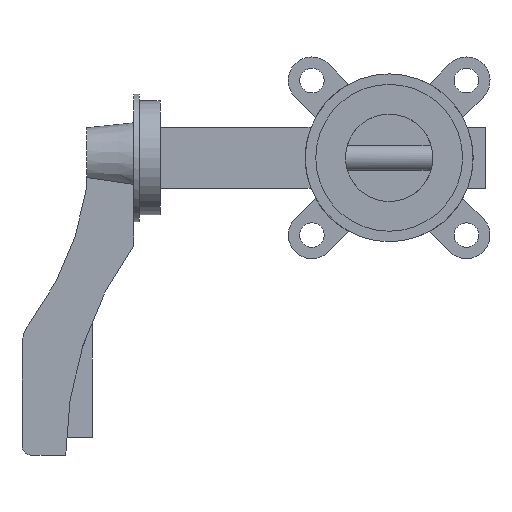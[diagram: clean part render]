
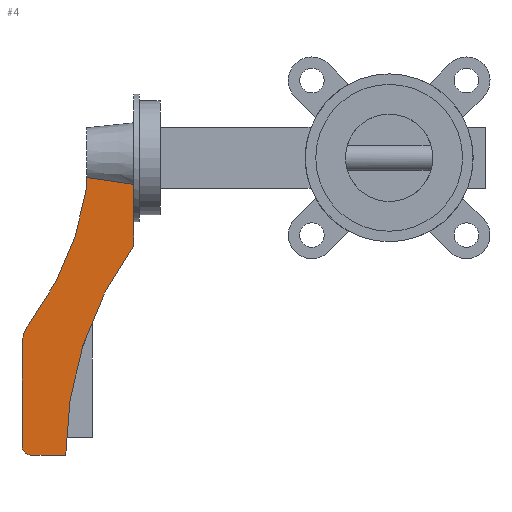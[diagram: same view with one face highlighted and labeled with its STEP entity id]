
A CAD part, left-side view. The second image highlights one B-rep face of the part: STEP entity #4.
In plain terms, the highlighted planar face has unit normal (-1, 0, 0).
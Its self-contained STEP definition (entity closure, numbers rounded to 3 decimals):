
#4 = ADVANCED_FACE ( 'NONE', ( #1190 ), #180, .T. ) ;
#49 = CARTESIAN_POINT ( 'NONE',  ( -13., 146., -34.106 ) ) ;
#180 = PLANE ( 'NONE',  #3784 ) ;
#241 = AXIS2_PLACEMENT_3D ( 'NONE', #3345, #3099, #331 ) ;
#301 = CARTESIAN_POINT ( 'NONE',  ( -13., 168.509, -11.927 ) ) ;
#331 = DIRECTION ( 'NONE',  ( 0., 0., -1. ) ) ;
#452 = CARTESIAN_POINT ( 'NONE',  ( -13., 205., -170. ) ) ;
#464 = EDGE_CURVE ( 'NONE', #2344, #2798, #1744, .T. ) ;
#504 = CARTESIAN_POINT ( 'NONE',  ( -13., 205.904, -94.839 ) ) ;
#540 = EDGE_CURVE ( 'NONE', #1484, #1106, #2573, .T. ) ;
#629 = DIRECTION ( 'NONE',  ( 0., 0., 1. ) ) ;
#637 = CARTESIAN_POINT ( 'NONE',  ( -13., 173., -17.162 ) ) ;
#639 = CARTESIAN_POINT ( 'NONE',  ( -13., 210., -165. ) ) ;
#678 = VECTOR ( 'NONE', #1200, 1000. ) ;
#760 = CARTESIAN_POINT ( 'NONE',  ( -13., 205., -170. ) ) ;
#840 = CARTESIAN_POINT ( 'NONE',  ( -13., -19.115, -170. ) ) ;
#864 = DIRECTION ( 'NONE',  ( -1., 0., 0. ) ) ;
#913 = DIRECTION ( 'NONE',  ( 0., 0., 1. ) ) ;
#1013 = CARTESIAN_POINT ( 'NONE',  ( -13., -19.115, -170. ) ) ;
#1058 = CARTESIAN_POINT ( 'NONE',  ( -13., 185., -170. ) ) ;
#1106 = VERTEX_POINT ( 'NONE', #2789 ) ;
#1188 = CARTESIAN_POINT ( 'NONE',  ( -13., 146., -15.199 ) ) ;
#1190 = FACE_OUTER_BOUND ( 'NONE', #4168, .T. ) ;
#1200 = DIRECTION ( 'NONE',  ( 0., 0., -1. ) ) ;
#1208 = DIRECTION ( 'NONE',  ( -1., 0., 0. ) ) ;
#1212 = CARTESIAN_POINT ( 'NONE',  ( -13., 341.092, 8.235 ) ) ;
#1290 = AXIS2_PLACEMENT_3D ( 'NONE', #1013, #3379, #629 ) ;
#1328 = VERTEX_POINT ( 'NONE', #1058 ) ;
#1373 = ORIENTED_EDGE ( 'NONE', *, *, #3747, .F. ) ;
#1376 = LINE ( 'NONE', #4148, #4139 ) ;
#1484 = VERTEX_POINT ( 'NONE', #49 ) ;
#1508 = CARTESIAN_POINT ( 'NONE',  ( -13., 146., -50. ) ) ;
#1516 = AXIS2_PLACEMENT_3D ( 'NONE', #1212, #864, #4303 ) ;
#1573 = VECTOR ( 'NONE', #1852, 1000. ) ;
#1581 = EDGE_CURVE ( 'NONE', #1328, #3138, #3850, .T. ) ;
#1682 = DIRECTION ( 'NONE',  ( 0., 0., 1. ) ) ;
#1693 = ORIENTED_EDGE ( 'NONE', *, *, #4259, .F. ) ;
#1706 = ORIENTED_EDGE ( 'NONE', *, *, #4080, .F. ) ;
#1744 = CIRCLE ( 'NONE', #3993, 20. ) ;
#1747 = EDGE_CURVE ( 'NONE', #3138, #2871, #4135, .T. ) ;
#1803 = VERTEX_POINT ( 'NONE', #637 ) ;
#1805 = EDGE_CURVE ( 'NONE', #3674, #3432, #2420, .T. ) ;
#1852 = DIRECTION ( 'NONE',  ( 0., 0., -1. ) ) ;
#1965 = EDGE_CURVE ( 'NONE', #3432, #1484, #3938, .T. ) ;
#2047 = ORIENTED_EDGE ( 'NONE', *, *, #1965, .F. ) ;
#2056 = DIRECTION ( 'NONE',  ( 1., 0., 0. ) ) ;
#2344 = VERTEX_POINT ( 'NONE', #4063 ) ;
#2346 = CARTESIAN_POINT ( 'NONE',  ( -13., 173., -11.204 ) ) ;
#2406 = CARTESIAN_POINT ( 'NONE',  ( -13., 155.011, -13.937 ) ) ;
#2420 = B_SPLINE_CURVE_WITH_KNOTS ( 'NONE', 3,
 ( #2346, #301, #3730, #2406, #4073, #3434 ),
 .UNSPECIFIED., .F., .F.,
 ( 4, 2, 4 ),
 ( 0.012, 0.025, 0.039 ),
 .UNSPECIFIED. ) ;
#2522 = CARTESIAN_POINT ( 'NONE',  ( -13., 173., -11.204 ) ) ;
#2550 = CIRCLE ( 'NONE', #1516, 170. ) ;
#2573 = LINE ( 'NONE', #1508, #678 ) ;
#2611 = LINE ( 'NONE', #2985, #3193 ) ;
#2789 = CARTESIAN_POINT ( 'NONE',  ( -13., 146., -50. ) ) ;
#2798 = VERTEX_POINT ( 'NONE', #504 ) ;
#2833 = VECTOR ( 'NONE', #3916, 1000. ) ;
#2840 = ORIENTED_EDGE ( 'NONE', *, *, #464, .F. ) ;
#2842 = CARTESIAN_POINT ( 'NONE',  ( -13., 190., -106.965 ) ) ;
#2871 = VERTEX_POINT ( 'NONE', #639 ) ;
#2985 = CARTESIAN_POINT ( 'NONE',  ( -13., 210., -106.965 ) ) ;
#3040 = ORIENTED_EDGE ( 'NONE', *, *, #1581, .F. ) ;
#3099 = DIRECTION ( 'NONE',  ( 1., 0., 0. ) ) ;
#3138 = VERTEX_POINT ( 'NONE', #452 ) ;
#3193 = VECTOR ( 'NONE', #913, 1000. ) ;
#3345 = CARTESIAN_POINT ( 'NONE',  ( -13., 205., -165. ) ) ;
#3379 = DIRECTION ( 'NONE',  ( -1., 0., 0. ) ) ;
#3432 = VERTEX_POINT ( 'NONE', #1188 ) ;
#3434 = CARTESIAN_POINT ( 'NONE',  ( -13., 146., -15.199 ) ) ;
#3446 = DIRECTION ( 'NONE',  ( 0., 0., -1. ) ) ;
#3592 = ORIENTED_EDGE ( 'NONE', *, *, #1747, .F. ) ;
#3625 = ORIENTED_EDGE ( 'NONE', *, *, #4152, .F. ) ;
#3674 = VERTEX_POINT ( 'NONE', #2522 ) ;
#3730 = CARTESIAN_POINT ( 'NONE',  ( -13., 164.012, -12.612 ) ) ;
#3747 = EDGE_CURVE ( 'NONE', #1106, #1328, #4044, .T. ) ;
#3752 = ORIENTED_EDGE ( 'NONE', *, *, #540, .F. ) ;
#3784 = AXIS2_PLACEMENT_3D ( 'NONE', #840, #1208, #3999 ) ;
#3850 = LINE ( 'NONE', #760, #2833 ) ;
#3916 = DIRECTION ( 'NONE',  ( 0., 1., 0. ) ) ;
#3938 = LINE ( 'NONE', #4326, #1573 ) ;
#3993 = AXIS2_PLACEMENT_3D ( 'NONE', #2842, #2056, #3446 ) ;
#3999 = DIRECTION ( 'NONE',  ( 0., 0., 1. ) ) ;
#4044 = CIRCLE ( 'NONE', #1290, 204.115 ) ;
#4063 = CARTESIAN_POINT ( 'NONE',  ( -13., 210., -106.965 ) ) ;
#4073 = CARTESIAN_POINT ( 'NONE',  ( -13., 150.506, -14.575 ) ) ;
#4080 = EDGE_CURVE ( 'NONE', #2871, #2344, #2611, .T. ) ;
#4135 = CIRCLE ( 'NONE', #241, 5. ) ;
#4139 = VECTOR ( 'NONE', #1682, 1000. ) ;
#4148 = CARTESIAN_POINT ( 'NONE',  ( -13., 173., 0. ) ) ;
#4152 = EDGE_CURVE ( 'NONE', #1803, #3674, #1376, .T. ) ;
#4168 = EDGE_LOOP ( 'NONE', ( #4413, #3625, #1693, #2840, #1706, #3592, #3040, #1373, #3752, #2047 ) ) ;
#4259 = EDGE_CURVE ( 'NONE', #2798, #1803, #2550, .T. ) ;
#4303 = DIRECTION ( 'NONE',  ( 0., 0., -1. ) ) ;
#4326 = CARTESIAN_POINT ( 'NONE',  ( -13., 146., -50. ) ) ;
#4413 = ORIENTED_EDGE ( 'NONE', *, *, #1805, .F. ) ;
